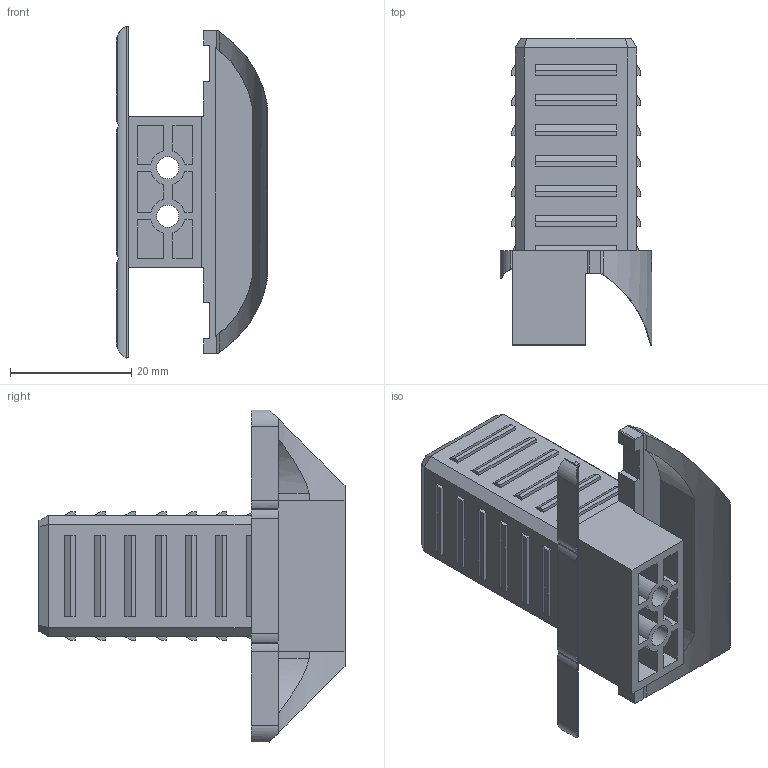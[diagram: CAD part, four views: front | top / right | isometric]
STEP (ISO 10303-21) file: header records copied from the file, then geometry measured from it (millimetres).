
FILE_DESCRIPTION (( 'STEP AP203' ), '1' );
FILE_NAME ('013.025.110.STEP', '2020-09-21T06:55:25', ( '' ), ( '' ), 'SwSTEP 2.0', 'SolidWorks 2018', '' );
FILE_SCHEMA (( 'CONFIG_CONTROL_DESIGN' ));
Length unit declared in the file: millimetre
Products named in the file (1): 013.025.110
Bounding box: 25 x 50.5 x 54.79 mm (x, y, z)
Volume: 11963.4 mm3; surface area: 12095.4 mm2
Topology: 1 solids, 1 shells, 309 faces, 806 edges, 532 vertices
Faces by surface type: plane 250, cylinder 55, bspline 4
Entity records: 9531 total; most frequent: CARTESIAN_POINT 1818, ORIENTED_EDGE 1612, DIRECTION 1490, EDGE_CURVE 806, VECTOR 686, LINE 686, VERTEX_POINT 532, AXIS2_PLACEMENT_3D 402
